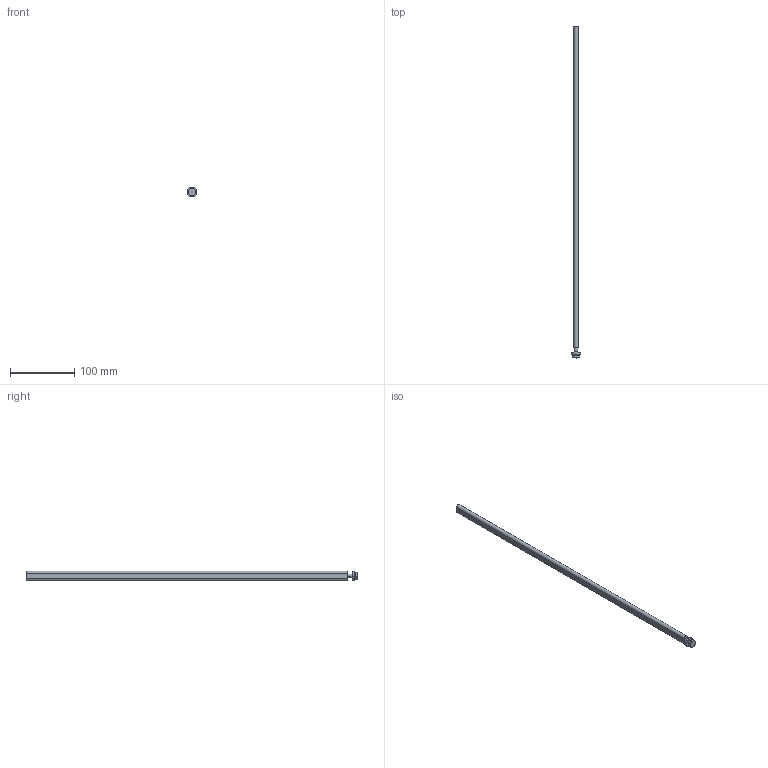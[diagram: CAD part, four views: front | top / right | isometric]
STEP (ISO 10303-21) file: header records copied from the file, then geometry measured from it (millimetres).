
FILE_DESCRIPTION (( 'STEP AP203' ), '1' );
FILE_NAME ('D10009289_KU-Modell_NovaPro_Bueroreling_NL525_02.step', '2025-04-15T14:32:46', ( '' ), ( '' ), 'SwSTEP 2.0', 'SolidWorks 2023', '' );
FILE_SCHEMA (( 'CONFIG_CONTROL_DESIGN' ));
Length unit declared in the file: millimetre
Products named in the file (1): D10009289_KU-Modell_NovaPro_Bueroreling_NL525_02
Bounding box: 14.8 x 515.8 x 15 mm (x, y, z)
Volume: 48422.7 mm3; surface area: 20073.6 mm2
Topology: 1 solids, 1 shells, 18 faces, 36 edges, 24 vertices
Faces by surface type: cylinder 10, plane 8
Entity records: 557 total; most frequent: DIRECTION 94, CARTESIAN_POINT 79, ORIENTED_EDGE 72, AXIS2_PLACEMENT_3D 39, EDGE_CURVE 36, VERTEX_POINT 24, EDGE_LOOP 22, CIRCLE 20
